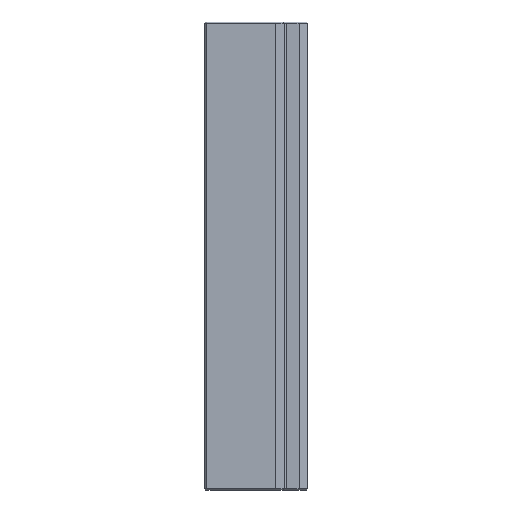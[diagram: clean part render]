
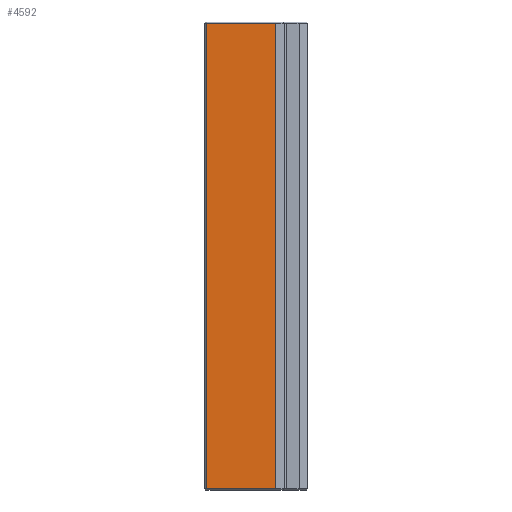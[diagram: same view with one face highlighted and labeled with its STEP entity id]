
A CAD part, left-side view. The second image highlights one B-rep face of the part: STEP entity #4592.
In plain terms, the highlighted planar face has unit normal (-1, 0, 0).
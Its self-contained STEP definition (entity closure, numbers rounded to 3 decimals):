
#266 = EDGE_CURVE ( 'NONE', #9079, #477, #8433, .T. ) ;
#434 = DIRECTION ( 'NONE',  ( 0., 0., -1. ) ) ;
#443 = CARTESIAN_POINT ( 'NONE',  ( -24.202, -24.563, -219. ) ) ;
#477 = VERTEX_POINT ( 'NONE', #11173 ) ;
#759 = DIRECTION ( 'NONE',  ( 0., 0., -1. ) ) ;
#1290 = ORIENTED_EDGE ( 'NONE', *, *, #266, .T. ) ;
#1825 = DIRECTION ( 'NONE',  ( 0., -1., 0. ) ) ;
#2292 = ORIENTED_EDGE ( 'NONE', *, *, #8261, .T. ) ;
#2296 = CARTESIAN_POINT ( 'NONE',  ( -24.202, 40.437, 219. ) ) ;
#2314 = DIRECTION ( 'NONE',  ( 0., 1., 0. ) ) ;
#3020 = DIRECTION ( 'NONE',  ( 1., 0., 0. ) ) ;
#3626 = CARTESIAN_POINT ( 'NONE',  ( -24.202, -24.563, 220. ) ) ;
#3883 = LINE ( 'NONE', #8177, #9169 ) ;
#3980 = ORIENTED_EDGE ( 'NONE', *, *, #9735, .T. ) ;
#4226 = VECTOR ( 'NONE', #434, 1000. ) ;
#4592 = ADVANCED_FACE ( 'NONE', ( #12851 ), #9380, .F. ) ;
#4845 = CARTESIAN_POINT ( 'NONE',  ( -24.202, -24.563, 219. ) ) ;
#5347 = EDGE_CURVE ( 'NONE', #9079, #11333, #7033, .T. ) ;
#5628 = EDGE_LOOP ( 'NONE', ( #3980, #2292, #6551, #1290 ) ) ;
#6066 = CARTESIAN_POINT ( 'NONE',  ( -24.202, 40.437, 220. ) ) ;
#6551 = ORIENTED_EDGE ( 'NONE', *, *, #5347, .F. ) ;
#6652 = VECTOR ( 'NONE', #759, 1000. ) ;
#7033 = LINE ( 'NONE', #3626, #4226 ) ;
#7258 = CARTESIAN_POINT ( 'NONE',  ( -24.202, -24.563, 220. ) ) ;
#8177 = CARTESIAN_POINT ( 'NONE',  ( -24.202, -24.563, -219. ) ) ;
#8261 = EDGE_CURVE ( 'NONE', #8914, #11333, #3883, .T. ) ;
#8433 = LINE ( 'NONE', #2296, #13752 ) ;
#8914 = VERTEX_POINT ( 'NONE', #13031 ) ;
#9079 = VERTEX_POINT ( 'NONE', #4845 ) ;
#9169 = VECTOR ( 'NONE', #1825, 1000. ) ;
#9380 = PLANE ( 'NONE',  #13664 ) ;
#9735 = EDGE_CURVE ( 'NONE', #477, #8914, #12276, .T. ) ;
#10441 = DIRECTION ( 'NONE',  ( 0., 0., -1. ) ) ;
#11173 = CARTESIAN_POINT ( 'NONE',  ( -24.202, 40.437, 219. ) ) ;
#11333 = VERTEX_POINT ( 'NONE', #443 ) ;
#12276 = LINE ( 'NONE', #6066, #6652 ) ;
#12851 = FACE_OUTER_BOUND ( 'NONE', #5628, .T. ) ;
#13031 = CARTESIAN_POINT ( 'NONE',  ( -24.202, 40.437, -219. ) ) ;
#13664 = AXIS2_PLACEMENT_3D ( 'NONE', #7258, #3020, #10441 ) ;
#13752 = VECTOR ( 'NONE', #2314, 1000. ) ;
